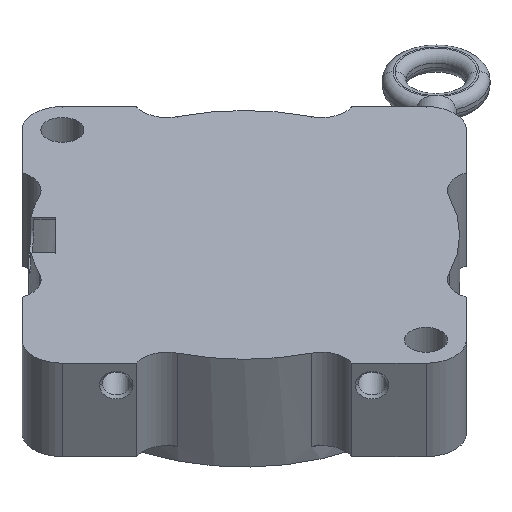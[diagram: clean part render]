
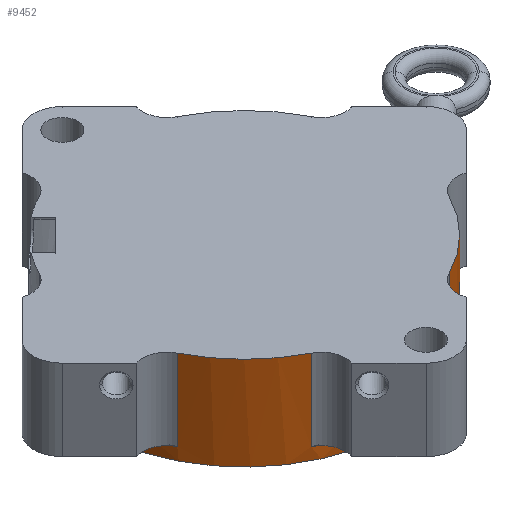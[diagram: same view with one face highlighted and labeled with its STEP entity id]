
A CAD part, isometric view. The second image highlights one B-rep face of the part: STEP entity #9452.
In plain terms, the highlighted cylindrical face has radius 16 mm (diameter 32 mm), a partial arc.
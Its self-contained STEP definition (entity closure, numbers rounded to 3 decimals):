
#943=DIRECTION('',(0.,0.,-1.));
#944=VECTOR('',#943,8.5);
#945=CARTESIAN_POINT('',(-14.269,-7.239,6.7));
#946=LINE('',#945,#944);
#952=DIRECTION('',(0.,0.,-1.));
#953=VECTOR('',#952,1.3);
#954=CARTESIAN_POINT('',(15.844,-2.232,-1.8));
#955=LINE('',#954,#953);
#956=CARTESIAN_POINT('',(0.,0.,-3.1));
#957=DIRECTION('',(0.,0.,-1.));
#958=DIRECTION('',(0.99,-0.139,0.));
#959=AXIS2_PLACEMENT_3D('',#956,#957,#958);
#961=DIRECTION('',(0.,0.,-1.));
#962=VECTOR('',#961,1.3);
#963=CARTESIAN_POINT('',(-15.844,-2.232,-1.8));
#964=LINE('',#963,#962);
#965=CARTESIAN_POINT('',(0.,0.,6.7));
#966=DIRECTION('',(0.,0.,1.));
#967=DIRECTION('',(-0.892,-0.452,0.));
#968=AXIS2_PLACEMENT_3D('',#965,#966,#967);
#970=CARTESIAN_POINT('',(0.,0.,6.7));
#971=DIRECTION('',(0.,0.,1.));
#972=DIRECTION('',(0.452,-0.892,0.));
#973=AXIS2_PLACEMENT_3D('',#970,#971,#972);
#984=DIRECTION('',(0.,0.,1.));
#985=VECTOR('',#984,8.5);
#986=CARTESIAN_POINT('',(14.269,-7.239,-1.8));
#987=LINE('',#986,#985);
#1007=CARTESIAN_POINT('',(0.,0.,-1.8));
#1008=DIRECTION('',(0.,0.,1.));
#1009=DIRECTION('',(0.892,-0.452,0.));
#1010=AXIS2_PLACEMENT_3D('',#1007,#1008,#1009);
#2641=CARTESIAN_POINT('',(0.,0.,-1.8));
#2642=DIRECTION('',(0.,0.,1.));
#2643=DIRECTION('',(-0.99,-0.139,0.));
#2644=AXIS2_PLACEMENT_3D('',#2641,#2642,#2643);
#6820=DIRECTION('',(0.,0.,1.));
#6821=VECTOR('',#6820,8.5);
#6822=CARTESIAN_POINT('',(-7.239,-14.269,-1.8));
#6823=LINE('',#6822,#6821);
#6869=DIRECTION('',(0.,0.,-1.));
#6870=VECTOR('',#6869,8.5);
#6871=CARTESIAN_POINT('',(7.239,-14.269,6.7));
#6872=LINE('',#6871,#6870);
#6878=CARTESIAN_POINT('',(0.,0.,-1.8));
#6879=DIRECTION('',(0.,0.,1.));
#6880=DIRECTION('',(-0.452,-0.892,0.));
#6881=AXIS2_PLACEMENT_3D('',#6878,#6879,#6880);
#7574=CARTESIAN_POINT('',(14.269,-7.239,6.7));
#7575=VERTEX_POINT('',#7574);
#7584=CARTESIAN_POINT('',(7.239,-14.269,6.7));
#7585=VERTEX_POINT('',#7584);
#7586=CARTESIAN_POINT('',(-7.239,-14.269,6.7));
#7587=VERTEX_POINT('',#7586);
#7596=CARTESIAN_POINT('',(-14.269,-7.239,6.7));
#7597=VERTEX_POINT('',#7596);
#7753=CARTESIAN_POINT('',(-14.269,-7.239,-1.8));
#7755=VERTEX_POINT('',#7753);
#7762=CARTESIAN_POINT('',(14.269,-7.239,-1.8));
#7763=VERTEX_POINT('',#7762);
#7774=CARTESIAN_POINT('',(15.844,-2.232,-1.8));
#7775=CARTESIAN_POINT('',(15.844,-2.232,-3.1));
#7776=VERTEX_POINT('',#7774);
#7777=VERTEX_POINT('',#7775);
#7782=CARTESIAN_POINT('',(-15.844,-2.232,-1.8));
#7783=CARTESIAN_POINT('',(-15.844,-2.232,-3.1));
#7784=VERTEX_POINT('',#7782);
#7785=VERTEX_POINT('',#7783);
#8194=CARTESIAN_POINT('',(-7.239,-14.269,-1.8));
#8195=VERTEX_POINT('',#8194);
#8197=CARTESIAN_POINT('',(7.239,-14.269,-1.8));
#8199=VERTEX_POINT('',#8197);
#9424=CARTESIAN_POINT('',(0.,0.,0.));
#9425=DIRECTION('',(0.,0.,1.));
#9426=DIRECTION('',(0.707,-0.707,0.));
#9427=AXIS2_PLACEMENT_3D('',#9424,#9425,#9426);
#9428=CYLINDRICAL_SURFACE('',#9427,16.);
#9430=ORIENTED_EDGE('',*,*,#9429,.F.);
#9432=ORIENTED_EDGE('',*,*,#9431,.T.);
#9434=ORIENTED_EDGE('',*,*,#9433,.T.);
#9436=ORIENTED_EDGE('',*,*,#9435,.T.);
#9438=ORIENTED_EDGE('',*,*,#9437,.F.);
#9440=ORIENTED_EDGE('',*,*,#9439,.T.);
#9441=ORIENTED_EDGE('',*,*,#9415,.F.);
#9442=ORIENTED_EDGE('',*,*,#8495,.T.);
#9444=ORIENTED_EDGE('',*,*,#9443,.F.);
#9446=ORIENTED_EDGE('',*,*,#9445,.T.);
#9448=ORIENTED_EDGE('',*,*,#9447,.F.);
#9449=ORIENTED_EDGE('',*,*,#8483,.T.);
#9450=EDGE_LOOP('',(#9430,#9432,#9434,#9436,#9438,#9440,#9441,#9442,#9444,#9446,
#9448,#9449));
#9451=FACE_OUTER_BOUND('',#9450,.F.);
#9452=ADVANCED_FACE('',(#9451),#9428,.T.);
#960=CIRCLE('',#959,16.);
#969=CIRCLE('',#968,16.);
#974=CIRCLE('',#973,16.);
#1011=CIRCLE('',#1010,16.);
#2645=CIRCLE('',#2644,16.);
#6882=CIRCLE('',#6881,16.);
#8483=EDGE_CURVE('',#7585,#7575,#974,.T.);
#8495=EDGE_CURVE('',#7597,#7587,#969,.T.);
#9415=EDGE_CURVE('',#7597,#7755,#946,.T.);
#9429=EDGE_CURVE('',#7763,#7575,#987,.T.);
#9431=EDGE_CURVE('',#7763,#7776,#1011,.T.);
#9433=EDGE_CURVE('',#7776,#7777,#955,.T.);
#9435=EDGE_CURVE('',#7777,#7785,#960,.T.);
#9437=EDGE_CURVE('',#7784,#7785,#964,.T.);
#9439=EDGE_CURVE('',#7784,#7755,#2645,.T.);
#9443=EDGE_CURVE('',#8195,#7587,#6823,.T.);
#9445=EDGE_CURVE('',#8195,#8199,#6882,.T.);
#9447=EDGE_CURVE('',#7585,#8199,#6872,.T.);
